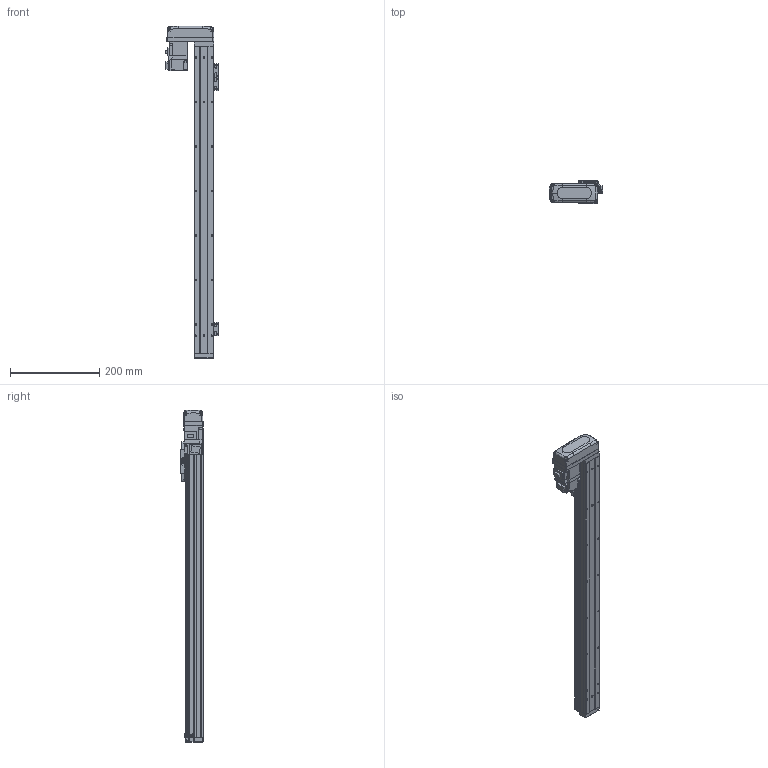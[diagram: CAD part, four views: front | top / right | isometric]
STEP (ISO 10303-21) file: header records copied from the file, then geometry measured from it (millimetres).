
FILE_DESCRIPTION (( 'STEP AP203' ), '1' );
FILE_NAME ('GTH4-550-BR-M05-C4.step', '2023-08-28T00:44:35', ( '微软用户' ), ( '微软中国' ), 'SwSTEP 2.0', 'SolidWorks 2020', '' );
FILE_SCHEMA (( 'CONFIG_CONTROL_DESIGN' ));
Length unit declared in the file: millimetre
Products named in the file (19): GBT70.1-2000 M3×16; GBT 70.1-M2.5×6; GTH4-550-BR-M05-C4; BTH50-028; BTH40-004; BTH50-023; BTH40-013; BTH40-001-50_BTH40-001-550; BTH50-024; HG-KR13; BTH40-003; GBT 70.1-M3℅6; GBT 70.3-M3℅6; BTH40-006; GBT96.1-2002 3×0.8; BTH40-027-1; BTH-M3X5X6; BTH40-022; BTH50-026
Assembly tree (47 placements, depth 2):
  GTH4-550-BR-M05-C4
    BTH40-001-50_BTH40-001-550
    BTH40-003
    BTH40-006
    BTH-M3X5X6  x8
    GBT70.1-2000 M3×16  x4
    BTH50-028  x2
    BTH50-023  x3
    BTH50-024  x3
    GBT 70.1-M3℅6  x6
    GBT96.1-2002 3×0.8  x6
    BTH40-022
    GBT 70.1-M2.5×6  x2
    BTH40-004
    BTH40-013
    HG-KR13
    GBT 70.3-M3℅6  x4
    BTH40-027-1
    BTH50-026
Bounding box: 120 x 52 x 746 mm (x, y, z)
Volume: 1351621.8 mm3; surface area: 236903 mm2
Topology: 49 solids, 49 shells, 1987 faces, 4671 edges, 2874 vertices
Faces by surface type: plane 1052, cylinder 499, cone 270, torus 128, bspline 34, sphere 4
Entity records: 39839 total; most frequent: CARTESIAN_POINT 7618, DIRECTION 6252, ORIENTED_EDGE 5988, EDGE_CURVE 2994, AXIS2_PLACEMENT_3D 2143, VECTOR 1966, LINE 1966, VERTEX_POINT 1861
